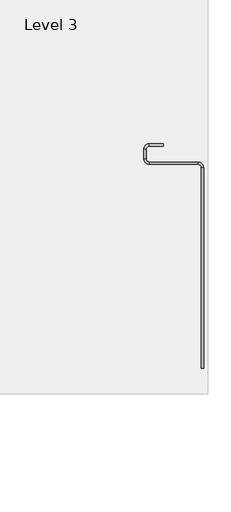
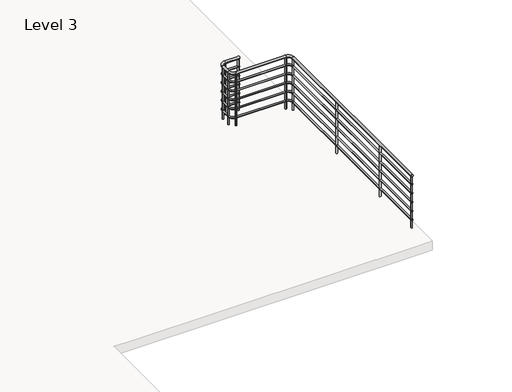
# One storey, part 2 of 4: 1 railing.
"""IFC4 building model written with IfcOpenShell, lengths in millimetres."""

from ifc_helpers import new_model, si_unit, point, frame, frame_2d, origin, place, context, project, spatial, circle_curve, ellipse_curve, trimmed, segment, composite_curve, outline, extrude, element, save
from ifc_brep_helpers import plane_surface, cylinder_surface, revolved_surface, advanced_brep

model = new_model("IFC4")

# Units and contexts
model_context = context("Model", 3, world=origin())
ifc_project = project(units=[si_unit("LENGTHUNIT", "METRE", prefix="MILLI")], contexts=[model_context])

# Site, building, storey
site = spatial("IfcSite", under=ifc_project)
building = spatial("IfcBuilding", under=site)
storey = spatial("IfcBuildingStorey", under=building, Name="Level 3", Elevation=7315.2)

# Railing
placement = place(None, origin())
element("IfcRailing", 1, ObjectType="Handrail - Pipe", at=placement, inside=storey, context=model_context, shape_type="SolidModel", body=[
    advanced_brep(
    [(17286.8049721, -5485.5476681, 8210.55), (17286.8049721, -5523.6476681, 8210.55), (17058.2049721, -5485.5476681, 8210.55), (17058.2049721, -5523.6476681, 8210.55), (17001.0549721, -5580.7976681, 8210.55), (16962.9549721, -5580.7976681, 8210.55), (16962.9549721, -5733.1976681, 8210.55), (17001.0549721, -5733.1976681, 8210.55), (17058.2049721, -5790.3476681, 8210.55), (17058.2049721, -5828.4476681, 8210.55), (17861.7339721, -5828.4476681, 8210.55), (17861.7339721, -5790.3476681, 8210.55), (17918.8839721, -9214.5851681, 8210.55), (17956.9839721, -9214.5851681, 8210.55), (17956.9839721, -5885.5976681, 8210.55), (17918.8839721, -5885.5976681, 8210.55)],
    [
        (0, 1, circle_curve(frame((17286.8049721, -5504.5976681, 8210.55), z_axis=(1.0, 0.0, 0.0), x_axis=(0.0, -1.0, 0.0)), 19.05)),
        (1, 0, circle_curve(frame((17286.8049721, -5504.5976681, 8210.55), z_axis=(1.0, 0.0, 0.0), x_axis=(0.0, -1.0, 0.0)), 19.05)),
        (0, 2),
        (2, 3, circle_curve(frame((17058.2049721, -5504.5976681, 8210.55), z_axis=(1.0, 0.0, 0.0), x_axis=(0.0, -1.0, 0.0)), 19.05)),
        (3, 1),
        (3, 2, circle_curve(frame((17058.2049721, -5504.5976681, 8210.55), z_axis=(1.0, 0.0, 0.0), x_axis=(0.0, -1.0, 0.0)), 19.05)),
        (4, 5, circle_curve(frame((16982.0049721, -5580.7976681, 8210.55), z_axis=(0.0, -1.0, 0.0), x_axis=(1.0, 0.0, 0.0)), 19.05)),
        (5, 6),
        (6, 7, circle_curve(frame((16982.0049721, -5733.1976681, 8210.55), z_axis=(0.0, 1.0, 0.0), x_axis=(1.0, 0.0, 0.0)), 19.05)),
        (7, 4),
        (5, 4, circle_curve(frame((16982.0049721, -5580.7976681, 8210.55), z_axis=(0.0, -1.0, 0.0), x_axis=(1.0, 0.0, 0.0)), 19.05)),
        (7, 6, circle_curve(frame((16982.0049721, -5733.1976681, 8210.55), z_axis=(0.0, 1.0, 0.0), x_axis=(1.0, 0.0, 0.0)), 19.05)),
        (8, 9, circle_curve(frame((17058.2049721, -5809.3976681, 8210.55), z_axis=(1.0, 0.0, 0.0), x_axis=(0.0, 1.0, 0.0)), 19.05)),
        (9, 10),
        (10, 11, circle_curve(frame((17861.7339721, -5809.3976681, 8210.55), z_axis=(-1.0, 0.0, 0.0), x_axis=(0.0, 1.0, 0.0)), 19.05)),
        (11, 8),
        (9, 8, circle_curve(frame((17058.2049721, -5809.3976681, 8210.55), z_axis=(1.0, 0.0, 0.0), x_axis=(0.0, 1.0, 0.0)), 19.05)),
        (11, 10, circle_curve(frame((17861.7339721, -5809.3976681, 8210.55), z_axis=(-1.0, 0.0, 0.0), x_axis=(0.0, 1.0, 0.0)), 19.05)),
        (12, 13, circle_curve(frame((17937.9339721, -9214.5851681, 8210.55), z_axis=(0.0, -1.0, 0.0), x_axis=(1.0, 0.0, 0.0)), 19.05)),
        (13, 12, circle_curve(frame((17937.9339721, -9214.5851681, 8210.55), z_axis=(0.0, -1.0, 0.0), x_axis=(1.0, 0.0, 0.0)), 19.05)),
        (14, 15, circle_curve(frame((17937.9339721, -5885.5976681, 8210.55), z_axis=(0.0, -1.0, 0.0), x_axis=(1.0, 0.0, 0.0)), 19.05)),
        (15, 12),
        (13, 14),
        (15, 14, circle_curve(frame((17937.9339721, -5885.5976681, 8210.55), z_axis=(0.0, -1.0, 0.0), x_axis=(1.0, 0.0, 0.0)), 19.05)),
        (4, 3, circle_curve(frame((17058.2049721, -5580.7976681, 8210.55), z_axis=(0.0, 0.0, -1.0), x_axis=(0.0, 1.0, 0.0)), 57.15)),
        (2, 5, circle_curve(frame((17058.2049721, -5580.7976681, 8210.55), z_axis=(0.0, 0.0, 1.0), x_axis=(0.0, 1.0, 0.0)), 95.25)),
        (8, 7, circle_curve(frame((17058.2049721, -5733.1976681, 8210.55), z_axis=(0.0, 0.0, -1.0), x_axis=(-1.0, 0.0, 0.0)), 57.15)),
        (6, 9, circle_curve(frame((17058.2049721, -5733.1976681, 8210.55), z_axis=(0.0, 0.0, 1.0), x_axis=(-1.0, 0.0, 0.0)), 95.25)),
        (14, 11, circle_curve(frame((17861.7339721, -5885.5976681, 8210.55), z_axis=(0.0, 0.0, 1.0), x_axis=(0.0, 1.0, 0.0)), 95.25)),
        (10, 15, circle_curve(frame((17861.7339721, -5885.5976681, 8210.55), z_axis=(0.0, 0.0, -1.0), x_axis=(0.0, 1.0, 0.0)), 57.15)),
    ],
    [
        plane_surface(frame((17286.8049721, -5504.5976681, 8229.6), z_axis=(1.0, 0.0, 0.0), x_axis=(0.0, -1.0, 0.0))),
        cylinder_surface(frame((17286.8049721, -5504.5976681, 8210.55), z_axis=(1.0, 0.0, 0.0), x_axis=(0.0, -1.0, 0.0)), 19.05),
        cylinder_surface(frame((16982.0049721, -5580.7976681, 8210.55), z_axis=(0.0, 1.0, 0.0), x_axis=(1.0, 0.0, 0.0)), 19.05),
        cylinder_surface(frame((17058.2049721, -5809.3976681, 8210.55), z_axis=(-1.0, 0.0, 0.0), x_axis=(0.0, 1.0, 0.0)), 19.05),
        plane_surface(frame((17937.9339721, -9214.5851681, 8229.6), z_axis=(0.0, -1.0, 0.0), x_axis=(0.0, 0.0, -1.0))),
        cylinder_surface(frame((17937.9339721, -5885.5976681, 8210.55), z_axis=(0.0, 1.0, 0.0), x_axis=(1.0, 0.0, 0.0)), 19.05),
        revolved_surface(trimmed(ellipse_curve(frame((17058.2049721, -5504.5976681, 8210.55), z_axis=(1.0, 0.0, 0.0), x_axis=(0.0, -1.0, 0.0)), 19.05, 19.05), [point((17058.2049721, -5485.5476681, 8210.55))], [point((17058.2049721, -5523.6476681, 8210.55))], True, "CARTESIAN"), (17058.2049721, -5580.7976681, 8229.6), (0.0, 0.0, 1.0)),
        revolved_surface(trimmed(ellipse_curve(frame((17058.2049721, -5504.5976681, 8210.55), z_axis=(1.0, 0.0, 0.0), x_axis=(0.0, -1.0, 0.0)), 19.05, 19.05), [point((17058.2049721, -5523.6476681, 8210.55))], [point((17058.2049721, -5485.5476681, 8210.55))], True, "CARTESIAN"), (17058.2049721, -5580.7976681, 8229.6), (0.0, 0.0, 1.0)),
        revolved_surface(trimmed(ellipse_curve(frame((16982.0049721, -5733.1976681, 8210.55), z_axis=(0.0, 1.0, 0.0), x_axis=(1.0, 0.0, 0.0)), 19.05, 19.05), [point((16962.9549721, -5733.1976681, 8210.55))], [point((17001.0549721, -5733.1976681, 8210.55))], True, "CARTESIAN"), (17058.2049721, -5733.1976681, 8229.6), (0.0, 0.0, 1.0)),
        revolved_surface(trimmed(ellipse_curve(frame((16982.0049721, -5733.1976681, 8210.55), z_axis=(0.0, 1.0, 0.0), x_axis=(1.0, 0.0, 0.0)), 19.05, 19.05), [point((17001.0549721, -5733.1976681, 8210.55))], [point((16962.9549721, -5733.1976681, 8210.55))], True, "CARTESIAN"), (17058.2049721, -5733.1976681, 8229.6), (0.0, 0.0, 1.0)),
        revolved_surface(trimmed(ellipse_curve(frame((17861.7339721, -5809.3976681, 8210.55), z_axis=(-1.0, 0.0, 0.0), x_axis=(0.0, 1.0, 0.0)), 19.05, 19.05), [point((17861.7339721, -5828.4476681, 8210.55))], [point((17861.7339721, -5790.3476681, 8210.55))], True, "CARTESIAN"), (17861.7339721, -5885.5976681, 8229.6), (0.0, 0.0, -1.0)),
        revolved_surface(trimmed(ellipse_curve(frame((17861.7339721, -5809.3976681, 8210.55), z_axis=(-1.0, 0.0, 0.0), x_axis=(0.0, 1.0, 0.0)), 19.05, 19.05), [point((17861.7339721, -5790.3476681, 8210.55))], [point((17861.7339721, -5828.4476681, 8210.55))], True, "CARTESIAN"), (17861.7339721, -5885.5976681, 8229.6), (0.0, 0.0, -1.0)),
    ],
    [
        (0, [[1, 2]]),
        (1, [[-1, 3, 4, 5]]),
        (1, [[-2, -5, 6, -3]]),
        (2, [[7, 8, 9, 10]]),
        (2, [[11, -10, 12, -8]]),
        (3, [[13, 14, 15, 16]]),
        (3, [[17, -16, 18, -14]]),
        (4, [[19, 20]]),
        (5, [[21, 22, -20, 23]]),
        (5, [[24, -23, -19, -22]]),
        (6, [[25, -4, 26, -7]]),
        (7, [[-26, -6, -25, -11]]),
        (8, [[27, -9, 28, -13]]),
        (9, [[-28, -12, -27, -17]]),
        (10, [[29, -15, 30, -21]]),
        (11, [[-30, -18, -29, -24]]),
    ],
),
    advanced_brep(
    [(17286.8049721, -5517.2976681, 8064.5), (17286.8049721, -5491.8976681, 8064.5), (17058.2049721, -5517.2976681, 8064.5), (17058.2049721, -5491.8976681, 8064.5), (16969.3049721, -5580.7976681, 8064.5), (16994.7049721, -5580.7976681, 8064.5), (16994.7049721, -5733.1976681, 8064.5), (16969.3049721, -5733.1976681, 8064.5), (17058.2049721, -5822.0976681, 8064.5), (17058.2049721, -5796.6976681, 8064.5), (17861.7339721, -5796.6976681, 8064.5), (17861.7339721, -5822.0976681, 8064.5), (17950.6339721, -9214.5851681, 8064.5), (17925.2339721, -9214.5851681, 8064.5), (17925.2339721, -5885.5976681, 8064.5), (17950.6339721, -5885.5976681, 8064.5)],
    [
        (0, 1, circle_curve(frame((17286.8049721, -5504.5976681, 8064.5), z_axis=(1.0, 0.0, 0.0), x_axis=(0.0, 1.0, 0.0)), 12.7)),
        (1, 0, circle_curve(frame((17286.8049721, -5504.5976681, 8064.5), z_axis=(1.0, 0.0, 0.0), x_axis=(0.0, 1.0, 0.0)), 12.7)),
        (0, 2),
        (2, 3, circle_curve(frame((17058.2049721, -5504.5976681, 8064.5), z_axis=(1.0, 0.0, 0.0), x_axis=(0.0, 1.0, 0.0)), 12.7)),
        (3, 1),
        (3, 2, circle_curve(frame((17058.2049721, -5504.5976681, 8064.5), z_axis=(1.0, 0.0, 0.0), x_axis=(0.0, 1.0, 0.0)), 12.7)),
        (4, 5, circle_curve(frame((16982.0049721, -5580.7976681, 8064.5), z_axis=(0.0, -1.0, 0.0), x_axis=(-1.0, 0.0, 0.0)), 12.7)),
        (5, 6),
        (6, 7, circle_curve(frame((16982.0049721, -5733.1976681, 8064.5), z_axis=(0.0, 1.0, 0.0), x_axis=(-1.0, 0.0, 0.0)), 12.7)),
        (7, 4),
        (5, 4, circle_curve(frame((16982.0049721, -5580.7976681, 8064.5), z_axis=(0.0, -1.0, 0.0), x_axis=(-1.0, 0.0, 0.0)), 12.7)),
        (7, 6, circle_curve(frame((16982.0049721, -5733.1976681, 8064.5), z_axis=(0.0, 1.0, 0.0), x_axis=(-1.0, 0.0, 0.0)), 12.7)),
        (8, 9, circle_curve(frame((17058.2049721, -5809.3976681, 8064.5), z_axis=(1.0, 0.0, 0.0), x_axis=(0.0, -1.0, 0.0)), 12.7)),
        (9, 10),
        (10, 11, circle_curve(frame((17861.7339721, -5809.3976681, 8064.5), z_axis=(-1.0, 0.0, 0.0), x_axis=(0.0, -1.0, 0.0)), 12.7)),
        (11, 8),
        (9, 8, circle_curve(frame((17058.2049721, -5809.3976681, 8064.5), z_axis=(1.0, 0.0, 0.0), x_axis=(0.0, -1.0, 0.0)), 12.7)),
        (11, 10, circle_curve(frame((17861.7339721, -5809.3976681, 8064.5), z_axis=(-1.0, 0.0, 0.0), x_axis=(0.0, -1.0, 0.0)), 12.7)),
        (12, 13, circle_curve(frame((17937.9339721, -9214.5851681, 8064.5), z_axis=(0.0, -1.0, 0.0), x_axis=(-1.0, 0.0, 0.0)), 12.7)),
        (13, 12, circle_curve(frame((17937.9339721, -9214.5851681, 8064.5), z_axis=(0.0, -1.0, 0.0), x_axis=(-1.0, 0.0, 0.0)), 12.7)),
        (14, 15, circle_curve(frame((17937.9339721, -5885.5976681, 8064.5), z_axis=(0.0, -1.0, 0.0), x_axis=(-1.0, 0.0, 0.0)), 12.7)),
        (15, 12),
        (13, 14),
        (15, 14, circle_curve(frame((17937.9339721, -5885.5976681, 8064.5), z_axis=(0.0, -1.0, 0.0), x_axis=(-1.0, 0.0, 0.0)), 12.7)),
        (4, 3, circle_curve(frame((17058.2049721, -5580.7976681, 8064.5), z_axis=(0.0, 0.0, -1.0), x_axis=(0.0, 1.0, 0.0)), 88.9)),
        (2, 5, circle_curve(frame((17058.2049721, -5580.7976681, 8064.5), z_axis=(0.0, 0.0, 1.0), x_axis=(0.0, 1.0, 0.0)), 63.5)),
        (8, 7, circle_curve(frame((17058.2049721, -5733.1976681, 8064.5), z_axis=(0.0, 0.0, -1.0), x_axis=(-1.0, 0.0, 0.0)), 88.9)),
        (6, 9, circle_curve(frame((17058.2049721, -5733.1976681, 8064.5), z_axis=(0.0, 0.0, 1.0), x_axis=(-1.0, 0.0, 0.0)), 63.5)),
        (14, 11, circle_curve(frame((17861.7339721, -5885.5976681, 8064.5), z_axis=(0.0, 0.0, 1.0), x_axis=(0.0, 1.0, 0.0)), 63.5)),
        (10, 15, circle_curve(frame((17861.7339721, -5885.5976681, 8064.5), z_axis=(0.0, 0.0, -1.0), x_axis=(0.0, 1.0, 0.0)), 88.9)),
    ],
    [
        plane_surface(frame((17286.8049721, -5504.5976681, 8077.2), z_axis=(1.0, 0.0, 0.0), x_axis=(0.0, -1.0, 0.0))),
        cylinder_surface(frame((17286.8049721, -5504.5976681, 8064.5), z_axis=(1.0, 0.0, 0.0), x_axis=(0.0, 1.0, 0.0)), 12.7),
        cylinder_surface(frame((16982.0049721, -5580.7976681, 8064.5), z_axis=(0.0, 1.0, 0.0), x_axis=(-1.0, 0.0, 0.0)), 12.7),
        cylinder_surface(frame((17058.2049721, -5809.3976681, 8064.5), z_axis=(-1.0, 0.0, 0.0), x_axis=(0.0, -1.0, 0.0)), 12.7),
        plane_surface(frame((17937.9339721, -9214.5851681, 8077.2), z_axis=(0.0, -1.0, 0.0), x_axis=(0.0, 0.0, -1.0))),
        cylinder_surface(frame((17937.9339721, -5885.5976681, 8064.5), z_axis=(0.0, 1.0, 0.0), x_axis=(-1.0, 0.0, 0.0)), 12.7),
        revolved_surface(trimmed(ellipse_curve(frame((17058.2049721, -5504.5976681, 8064.5), z_axis=(1.0, 0.0, 0.0), x_axis=(0.0, 1.0, 0.0)), 12.7, 12.7), [point((17058.2049721, -5517.2976681, 8064.5))], [point((17058.2049721, -5491.8976681, 8064.5))], True, "CARTESIAN"), (17058.2049721, -5580.7976681, 8077.2), (0.0, 0.0, 1.0)),
        revolved_surface(trimmed(ellipse_curve(frame((17058.2049721, -5504.5976681, 8064.5), z_axis=(1.0, 0.0, 0.0), x_axis=(0.0, 1.0, 0.0)), 12.7, 12.7), [point((17058.2049721, -5491.8976681, 8064.5))], [point((17058.2049721, -5517.2976681, 8064.5))], True, "CARTESIAN"), (17058.2049721, -5580.7976681, 8077.2), (0.0, 0.0, 1.0)),
        revolved_surface(trimmed(ellipse_curve(frame((16982.0049721, -5733.1976681, 8064.5), z_axis=(0.0, 1.0, 0.0), x_axis=(-1.0, 0.0, 0.0)), 12.7, 12.7), [point((16994.7049721, -5733.1976681, 8064.5))], [point((16969.3049721, -5733.1976681, 8064.5))], True, "CARTESIAN"), (17058.2049721, -5733.1976681, 8077.2), (0.0, 0.0, 1.0)),
        revolved_surface(trimmed(ellipse_curve(frame((16982.0049721, -5733.1976681, 8064.5), z_axis=(0.0, 1.0, 0.0), x_axis=(-1.0, 0.0, 0.0)), 12.7, 12.7), [point((16969.3049721, -5733.1976681, 8064.5))], [point((16994.7049721, -5733.1976681, 8064.5))], True, "CARTESIAN"), (17058.2049721, -5733.1976681, 8077.2), (0.0, 0.0, 1.0)),
        revolved_surface(trimmed(ellipse_curve(frame((17861.7339721, -5809.3976681, 8064.5), z_axis=(-1.0, 0.0, 0.0), x_axis=(0.0, -1.0, 0.0)), 12.7, 12.7), [point((17861.7339721, -5796.6976681, 8064.5))], [point((17861.7339721, -5822.0976681, 8064.5))], True, "CARTESIAN"), (17861.7339721, -5885.5976681, 8077.2), (0.0, 0.0, -1.0)),
        revolved_surface(trimmed(ellipse_curve(frame((17861.7339721, -5809.3976681, 8064.5), z_axis=(-1.0, 0.0, 0.0), x_axis=(0.0, -1.0, 0.0)), 12.7, 12.7), [point((17861.7339721, -5822.0976681, 8064.5))], [point((17861.7339721, -5796.6976681, 8064.5))], True, "CARTESIAN"), (17861.7339721, -5885.5976681, 8077.2), (0.0, 0.0, -1.0)),
    ],
    [
        (0, [[1, 2]]),
        (1, [[-1, 3, 4, 5]]),
        (1, [[-2, -5, 6, -3]]),
        (2, [[7, 8, 9, 10]]),
        (2, [[11, -10, 12, -8]]),
        (3, [[13, 14, 15, 16]]),
        (3, [[17, -16, 18, -14]]),
        (4, [[19, 20]]),
        (5, [[21, 22, -20, 23]]),
        (5, [[24, -23, -19, -22]]),
        (6, [[25, -4, 26, -7]]),
        (7, [[-26, -6, -25, -11]]),
        (8, [[27, -9, 28, -13]]),
        (9, [[-28, -12, -27, -17]]),
        (10, [[29, -15, 30, -21]]),
        (11, [[-30, -18, -29, -24]]),
    ],
),
    advanced_brep(
    [(17286.8049721, -5517.2976681, 7912.1), (17286.8049721, -5491.8976681, 7912.1), (17058.2049721, -5517.2976681, 7912.1), (17058.2049721, -5491.8976681, 7912.1), (16969.3049721, -5580.7976681, 7912.1), (16994.7049721, -5580.7976681, 7912.1), (16994.7049721, -5733.1976681, 7912.1), (16969.3049721, -5733.1976681, 7912.1), (17058.2049721, -5822.0976681, 7912.1), (17058.2049721, -5796.6976681, 7912.1), (17861.7339721, -5796.6976681, 7912.1), (17861.7339721, -5822.0976681, 7912.1), (17950.6339721, -9214.5851681, 7912.1), (17925.2339721, -9214.5851681, 7912.1), (17925.2339721, -5885.5976681, 7912.1), (17950.6339721, -5885.5976681, 7912.1)],
    [
        (0, 1, circle_curve(frame((17286.8049721, -5504.5976681, 7912.1), z_axis=(1.0, 0.0, 0.0), x_axis=(0.0, 1.0, 0.0)), 12.7)),
        (1, 0, circle_curve(frame((17286.8049721, -5504.5976681, 7912.1), z_axis=(1.0, 0.0, 0.0), x_axis=(0.0, 1.0, 0.0)), 12.7)),
        (0, 2),
        (2, 3, circle_curve(frame((17058.2049721, -5504.5976681, 7912.1), z_axis=(1.0, 0.0, 0.0), x_axis=(0.0, 1.0, 0.0)), 12.7)),
        (3, 1),
        (3, 2, circle_curve(frame((17058.2049721, -5504.5976681, 7912.1), z_axis=(1.0, 0.0, 0.0), x_axis=(0.0, 1.0, 0.0)), 12.7)),
        (4, 5, circle_curve(frame((16982.0049721, -5580.7976681, 7912.1), z_axis=(0.0, -1.0, 0.0), x_axis=(-1.0, 0.0, 0.0)), 12.7)),
        (5, 6),
        (6, 7, circle_curve(frame((16982.0049721, -5733.1976681, 7912.1), z_axis=(0.0, 1.0, 0.0), x_axis=(-1.0, 0.0, 0.0)), 12.7)),
        (7, 4),
        (5, 4, circle_curve(frame((16982.0049721, -5580.7976681, 7912.1), z_axis=(0.0, -1.0, 0.0), x_axis=(-1.0, 0.0, 0.0)), 12.7)),
        (7, 6, circle_curve(frame((16982.0049721, -5733.1976681, 7912.1), z_axis=(0.0, 1.0, 0.0), x_axis=(-1.0, 0.0, 0.0)), 12.7)),
        (8, 9, circle_curve(frame((17058.2049721, -5809.3976681, 7912.1), z_axis=(1.0, 0.0, 0.0), x_axis=(0.0, -1.0, 0.0)), 12.7)),
        (9, 10),
        (10, 11, circle_curve(frame((17861.7339721, -5809.3976681, 7912.1), z_axis=(-1.0, 0.0, 0.0), x_axis=(0.0, -1.0, 0.0)), 12.7)),
        (11, 8),
        (9, 8, circle_curve(frame((17058.2049721, -5809.3976681, 7912.1), z_axis=(1.0, 0.0, 0.0), x_axis=(0.0, -1.0, 0.0)), 12.7)),
        (11, 10, circle_curve(frame((17861.7339721, -5809.3976681, 7912.1), z_axis=(-1.0, 0.0, 0.0), x_axis=(0.0, -1.0, 0.0)), 12.7)),
        (12, 13, circle_curve(frame((17937.9339721, -9214.5851681, 7912.1), z_axis=(0.0, -1.0, 0.0), x_axis=(-1.0, 0.0, 0.0)), 12.7)),
        (13, 12, circle_curve(frame((17937.9339721, -9214.5851681, 7912.1), z_axis=(0.0, -1.0, 0.0), x_axis=(-1.0, 0.0, 0.0)), 12.7)),
        (14, 15, circle_curve(frame((17937.9339721, -5885.5976681, 7912.1), z_axis=(0.0, -1.0, 0.0), x_axis=(-1.0, 0.0, 0.0)), 12.7)),
        (15, 12),
        (13, 14),
        (15, 14, circle_curve(frame((17937.9339721, -5885.5976681, 7912.1), z_axis=(0.0, -1.0, 0.0), x_axis=(-1.0, 0.0, 0.0)), 12.7)),
        (4, 3, circle_curve(frame((17058.2049721, -5580.7976681, 7912.1), z_axis=(0.0, 0.0, -1.0), x_axis=(0.0, 1.0, 0.0)), 88.9)),
        (2, 5, circle_curve(frame((17058.2049721, -5580.7976681, 7912.1), z_axis=(0.0, 0.0, 1.0), x_axis=(0.0, 1.0, 0.0)), 63.5)),
        (8, 7, circle_curve(frame((17058.2049721, -5733.1976681, 7912.1), z_axis=(0.0, 0.0, -1.0), x_axis=(-1.0, 0.0, 0.0)), 88.9)),
        (6, 9, circle_curve(frame((17058.2049721, -5733.1976681, 7912.1), z_axis=(0.0, 0.0, 1.0), x_axis=(-1.0, 0.0, 0.0)), 63.5)),
        (14, 11, circle_curve(frame((17861.7339721, -5885.5976681, 7912.1), z_axis=(0.0, 0.0, 1.0), x_axis=(0.0, 1.0, 0.0)), 63.5)),
        (10, 15, circle_curve(frame((17861.7339721, -5885.5976681, 7912.1), z_axis=(0.0, 0.0, -1.0), x_axis=(0.0, 1.0, 0.0)), 88.9)),
    ],
    [
        plane_surface(frame((17286.8049721, -5504.5976681, 7924.8), z_axis=(1.0, 0.0, 0.0), x_axis=(0.0, -1.0, 0.0))),
        cylinder_surface(frame((17286.8049721, -5504.5976681, 7912.1), z_axis=(1.0, 0.0, 0.0), x_axis=(0.0, 1.0, 0.0)), 12.7),
        cylinder_surface(frame((16982.0049721, -5580.7976681, 7912.1), z_axis=(0.0, 1.0, 0.0), x_axis=(-1.0, 0.0, 0.0)), 12.7),
        cylinder_surface(frame((17058.2049721, -5809.3976681, 7912.1), z_axis=(-1.0, 0.0, 0.0), x_axis=(0.0, -1.0, 0.0)), 12.7),
        plane_surface(frame((17937.9339721, -9214.5851681, 7924.8), z_axis=(0.0, -1.0, 0.0), x_axis=(0.0, 0.0, -1.0))),
        cylinder_surface(frame((17937.9339721, -5885.5976681, 7912.1), z_axis=(0.0, 1.0, 0.0), x_axis=(-1.0, 0.0, 0.0)), 12.7),
        revolved_surface(trimmed(ellipse_curve(frame((17058.2049721, -5504.5976681, 7912.1), z_axis=(1.0, 0.0, 0.0), x_axis=(0.0, 1.0, 0.0)), 12.7, 12.7), [point((17058.2049721, -5517.2976681, 7912.1))], [point((17058.2049721, -5491.8976681, 7912.1))], True, "CARTESIAN"), (17058.2049721, -5580.7976681, 7924.8), (0.0, 0.0, 1.0)),
        revolved_surface(trimmed(ellipse_curve(frame((17058.2049721, -5504.5976681, 7912.1), z_axis=(1.0, 0.0, 0.0), x_axis=(0.0, 1.0, 0.0)), 12.7, 12.7), [point((17058.2049721, -5491.8976681, 7912.1))], [point((17058.2049721, -5517.2976681, 7912.1))], True, "CARTESIAN"), (17058.2049721, -5580.7976681, 7924.8), (0.0, 0.0, 1.0)),
        revolved_surface(trimmed(ellipse_curve(frame((16982.0049721, -5733.1976681, 7912.1), z_axis=(0.0, 1.0, 0.0), x_axis=(-1.0, 0.0, 0.0)), 12.7, 12.7), [point((16994.7049721, -5733.1976681, 7912.1))], [point((16969.3049721, -5733.1976681, 7912.1))], True, "CARTESIAN"), (17058.2049721, -5733.1976681, 7924.8), (0.0, 0.0, 1.0)),
        revolved_surface(trimmed(ellipse_curve(frame((16982.0049721, -5733.1976681, 7912.1), z_axis=(0.0, 1.0, 0.0), x_axis=(-1.0, 0.0, 0.0)), 12.7, 12.7), [point((16969.3049721, -5733.1976681, 7912.1))], [point((16994.7049721, -5733.1976681, 7912.1))], True, "CARTESIAN"), (17058.2049721, -5733.1976681, 7924.8), (0.0, 0.0, 1.0)),
        revolved_surface(trimmed(ellipse_curve(frame((17861.7339721, -5809.3976681, 7912.1), z_axis=(-1.0, 0.0, 0.0), x_axis=(0.0, -1.0, 0.0)), 12.7, 12.7), [point((17861.7339721, -5796.6976681, 7912.1))], [point((17861.7339721, -5822.0976681, 7912.1))], True, "CARTESIAN"), (17861.7339721, -5885.5976681, 7924.8), (0.0, 0.0, -1.0)),
        revolved_surface(trimmed(ellipse_curve(frame((17861.7339721, -5809.3976681, 7912.1), z_axis=(-1.0, 0.0, 0.0), x_axis=(0.0, -1.0, 0.0)), 12.7, 12.7), [point((17861.7339721, -5822.0976681, 7912.1))], [point((17861.7339721, -5796.6976681, 7912.1))], True, "CARTESIAN"), (17861.7339721, -5885.5976681, 7924.8), (0.0, 0.0, -1.0)),
    ],
    [
        (0, [[1, 2]]),
        (1, [[-1, 3, 4, 5]]),
        (1, [[-2, -5, 6, -3]]),
        (2, [[7, 8, 9, 10]]),
        (2, [[11, -10, 12, -8]]),
        (3, [[13, 14, 15, 16]]),
        (3, [[17, -16, 18, -14]]),
        (4, [[19, 20]]),
        (5, [[21, 22, -20, 23]]),
        (5, [[24, -23, -19, -22]]),
        (6, [[25, -4, 26, -7]]),
        (7, [[-26, -6, -25, -11]]),
        (8, [[27, -9, 28, -13]]),
        (9, [[-28, -12, -27, -17]]),
        (10, [[29, -15, 30, -21]]),
        (11, [[-30, -18, -29, -24]]),
    ],
),
    advanced_brep(
    [(17286.8049721, -5517.2976681, 7759.7), (17286.8049721, -5491.8976681, 7759.7), (17058.2049721, -5517.2976681, 7759.7), (17058.2049721, -5491.8976681, 7759.7), (16969.3049721, -5580.7976681, 7759.7), (16994.7049721, -5580.7976681, 7759.7), (16994.7049721, -5733.1976681, 7759.7), (16969.3049721, -5733.1976681, 7759.7), (17058.2049721, -5822.0976681, 7759.7), (17058.2049721, -5796.6976681, 7759.7), (17861.7339721, -5796.6976681, 7759.7), (17861.7339721, -5822.0976681, 7759.7), (17950.6339721, -9214.5851681, 7759.7), (17925.2339721, -9214.5851681, 7759.7), (17925.2339721, -5885.5976681, 7759.7), (17950.6339721, -5885.5976681, 7759.7)],
    [
        (0, 1, circle_curve(frame((17286.8049721, -5504.5976681, 7759.7), z_axis=(1.0, 0.0, 0.0), x_axis=(0.0, 1.0, 0.0)), 12.7)),
        (1, 0, circle_curve(frame((17286.8049721, -5504.5976681, 7759.7), z_axis=(1.0, 0.0, 0.0), x_axis=(0.0, 1.0, 0.0)), 12.7)),
        (0, 2),
        (2, 3, circle_curve(frame((17058.2049721, -5504.5976681, 7759.7), z_axis=(1.0, 0.0, 0.0), x_axis=(0.0, 1.0, 0.0)), 12.7)),
        (3, 1),
        (3, 2, circle_curve(frame((17058.2049721, -5504.5976681, 7759.7), z_axis=(1.0, 0.0, 0.0), x_axis=(0.0, 1.0, 0.0)), 12.7)),
        (4, 5, circle_curve(frame((16982.0049721, -5580.7976681, 7759.7), z_axis=(0.0, -1.0, 0.0), x_axis=(-1.0, 0.0, 0.0)), 12.7)),
        (5, 6),
        (6, 7, circle_curve(frame((16982.0049721, -5733.1976681, 7759.7), z_axis=(0.0, 1.0, 0.0), x_axis=(-1.0, 0.0, 0.0)), 12.7)),
        (7, 4),
        (5, 4, circle_curve(frame((16982.0049721, -5580.7976681, 7759.7), z_axis=(0.0, -1.0, 0.0), x_axis=(-1.0, 0.0, 0.0)), 12.7)),
        (7, 6, circle_curve(frame((16982.0049721, -5733.1976681, 7759.7), z_axis=(0.0, 1.0, 0.0), x_axis=(-1.0, 0.0, 0.0)), 12.7)),
        (8, 9, circle_curve(frame((17058.2049721, -5809.3976681, 7759.7), z_axis=(1.0, 0.0, 0.0), x_axis=(0.0, -1.0, 0.0)), 12.7)),
        (9, 10),
        (10, 11, circle_curve(frame((17861.7339721, -5809.3976681, 7759.7), z_axis=(-1.0, 0.0, 0.0), x_axis=(0.0, -1.0, 0.0)), 12.7)),
        (11, 8),
        (9, 8, circle_curve(frame((17058.2049721, -5809.3976681, 7759.7), z_axis=(1.0, 0.0, 0.0), x_axis=(0.0, -1.0, 0.0)), 12.7)),
        (11, 10, circle_curve(frame((17861.7339721, -5809.3976681, 7759.7), z_axis=(-1.0, 0.0, 0.0), x_axis=(0.0, -1.0, 0.0)), 12.7)),
        (12, 13, circle_curve(frame((17937.9339721, -9214.5851681, 7759.7), z_axis=(0.0, -1.0, 0.0), x_axis=(-1.0, 0.0, 0.0)), 12.7)),
        (13, 12, circle_curve(frame((17937.9339721, -9214.5851681, 7759.7), z_axis=(0.0, -1.0, 0.0), x_axis=(-1.0, 0.0, 0.0)), 12.7)),
        (14, 15, circle_curve(frame((17937.9339721, -5885.5976681, 7759.7), z_axis=(0.0, -1.0, 0.0), x_axis=(-1.0, 0.0, 0.0)), 12.7)),
        (15, 12),
        (13, 14),
        (15, 14, circle_curve(frame((17937.9339721, -5885.5976681, 7759.7), z_axis=(0.0, -1.0, 0.0), x_axis=(-1.0, 0.0, 0.0)), 12.7)),
        (4, 3, circle_curve(frame((17058.2049721, -5580.7976681, 7759.7), z_axis=(0.0, 0.0, -1.0), x_axis=(0.0, 1.0, 0.0)), 88.9)),
        (2, 5, circle_curve(frame((17058.2049721, -5580.7976681, 7759.7), z_axis=(0.0, 0.0, 1.0), x_axis=(0.0, 1.0, 0.0)), 63.5)),
        (8, 7, circle_curve(frame((17058.2049721, -5733.1976681, 7759.7), z_axis=(0.0, 0.0, -1.0), x_axis=(-1.0, 0.0, 0.0)), 88.9)),
        (6, 9, circle_curve(frame((17058.2049721, -5733.1976681, 7759.7), z_axis=(0.0, 0.0, 1.0), x_axis=(-1.0, 0.0, 0.0)), 63.5)),
        (14, 11, circle_curve(frame((17861.7339721, -5885.5976681, 7759.7), z_axis=(0.0, 0.0, 1.0), x_axis=(0.0, 1.0, 0.0)), 63.5)),
        (10, 15, circle_curve(frame((17861.7339721, -5885.5976681, 7759.7), z_axis=(0.0, 0.0, -1.0), x_axis=(0.0, 1.0, 0.0)), 88.9)),
    ],
    [
        plane_surface(frame((17286.8049721, -5504.5976681, 7772.4), z_axis=(1.0, 0.0, 0.0), x_axis=(0.0, -1.0, 0.0))),
        cylinder_surface(frame((17286.8049721, -5504.5976681, 7759.7), z_axis=(1.0, 0.0, 0.0), x_axis=(0.0, 1.0, 0.0)), 12.7),
        cylinder_surface(frame((16982.0049721, -5580.7976681, 7759.7), z_axis=(0.0, 1.0, 0.0), x_axis=(-1.0, 0.0, 0.0)), 12.7),
        cylinder_surface(frame((17058.2049721, -5809.3976681, 7759.7), z_axis=(-1.0, 0.0, 0.0), x_axis=(0.0, -1.0, 0.0)), 12.7),
        plane_surface(frame((17937.9339721, -9214.5851681, 7772.4), z_axis=(0.0, -1.0, 0.0), x_axis=(0.0, 0.0, -1.0))),
        cylinder_surface(frame((17937.9339721, -5885.5976681, 7759.7), z_axis=(0.0, 1.0, 0.0), x_axis=(-1.0, 0.0, 0.0)), 12.7),
        revolved_surface(trimmed(ellipse_curve(frame((17058.2049721, -5504.5976681, 7759.7), z_axis=(1.0, 0.0, 0.0), x_axis=(0.0, 1.0, 0.0)), 12.7, 12.7), [point((17058.2049721, -5517.2976681, 7759.7))], [point((17058.2049721, -5491.8976681, 7759.7))], True, "CARTESIAN"), (17058.2049721, -5580.7976681, 7772.4), (0.0, 0.0, 1.0)),
        revolved_surface(trimmed(ellipse_curve(frame((17058.2049721, -5504.5976681, 7759.7), z_axis=(1.0, 0.0, 0.0), x_axis=(0.0, 1.0, 0.0)), 12.7, 12.7), [point((17058.2049721, -5491.8976681, 7759.7))], [point((17058.2049721, -5517.2976681, 7759.7))], True, "CARTESIAN"), (17058.2049721, -5580.7976681, 7772.4), (0.0, 0.0, 1.0)),
        revolved_surface(trimmed(ellipse_curve(frame((16982.0049721, -5733.1976681, 7759.7), z_axis=(0.0, 1.0, 0.0), x_axis=(-1.0, 0.0, 0.0)), 12.7, 12.7), [point((16994.7049721, -5733.1976681, 7759.7))], [point((16969.3049721, -5733.1976681, 7759.7))], True, "CARTESIAN"), (17058.2049721, -5733.1976681, 7772.4), (0.0, 0.0, 1.0)),
        revolved_surface(trimmed(ellipse_curve(frame((16982.0049721, -5733.1976681, 7759.7), z_axis=(0.0, 1.0, 0.0), x_axis=(-1.0, 0.0, 0.0)), 12.7, 12.7), [point((16969.3049721, -5733.1976681, 7759.7))], [point((16994.7049721, -5733.1976681, 7759.7))], True, "CARTESIAN"), (17058.2049721, -5733.1976681, 7772.4), (0.0, 0.0, 1.0)),
        revolved_surface(trimmed(ellipse_curve(frame((17861.7339721, -5809.3976681, 7759.7), z_axis=(-1.0, 0.0, 0.0), x_axis=(0.0, -1.0, 0.0)), 12.7, 12.7), [point((17861.7339721, -5796.6976681, 7759.7))], [point((17861.7339721, -5822.0976681, 7759.7))], True, "CARTESIAN"), (17861.7339721, -5885.5976681, 7772.4), (0.0, 0.0, -1.0)),
        revolved_surface(trimmed(ellipse_curve(frame((17861.7339721, -5809.3976681, 7759.7), z_axis=(-1.0, 0.0, 0.0), x_axis=(0.0, -1.0, 0.0)), 12.7, 12.7), [point((17861.7339721, -5822.0976681, 7759.7))], [point((17861.7339721, -5796.6976681, 7759.7))], True, "CARTESIAN"), (17861.7339721, -5885.5976681, 7772.4), (0.0, 0.0, -1.0)),
    ],
    [
        (0, [[1, 2]]),
        (1, [[-1, 3, 4, 5]]),
        (1, [[-2, -5, 6, -3]]),
        (2, [[7, 8, 9, 10]]),
        (2, [[11, -10, 12, -8]]),
        (3, [[13, 14, 15, 16]]),
        (3, [[17, -16, 18, -14]]),
        (4, [[19, 20]]),
        (5, [[21, 22, -20, 23]]),
        (5, [[24, -23, -19, -22]]),
        (6, [[25, -4, 26, -7]]),
        (7, [[-26, -6, -25, -11]]),
        (8, [[27, -9, 28, -13]]),
        (9, [[-28, -12, -27, -17]]),
        (10, [[29, -15, 30, -21]]),
        (11, [[-30, -18, -29, -24]]),
    ],
),
    advanced_brep(
    [(17286.8049721, -5517.2976681, 7607.3), (17286.8049721, -5491.8976681, 7607.3), (17058.2049721, -5517.2976681, 7607.3), (17058.2049721, -5491.8976681, 7607.3), (16969.3049721, -5580.7976681, 7607.3), (16994.7049721, -5580.7976681, 7607.3), (16994.7049721, -5733.1976681, 7607.3), (16969.3049721, -5733.1976681, 7607.3), (17058.2049721, -5822.0976681, 7607.3), (17058.2049721, -5796.6976681, 7607.3), (17861.7339721, -5796.6976681, 7607.3), (17861.7339721, -5822.0976681, 7607.3), (17950.6339721, -9214.5851681, 7607.3), (17925.2339721, -9214.5851681, 7607.3), (17925.2339721, -5885.5976681, 7607.3), (17950.6339721, -5885.5976681, 7607.3)],
    [
        (0, 1, circle_curve(frame((17286.8049721, -5504.5976681, 7607.3), z_axis=(1.0, 0.0, 0.0), x_axis=(0.0, 1.0, 0.0)), 12.7)),
        (1, 0, circle_curve(frame((17286.8049721, -5504.5976681, 7607.3), z_axis=(1.0, 0.0, 0.0), x_axis=(0.0, 1.0, 0.0)), 12.7)),
        (0, 2),
        (2, 3, circle_curve(frame((17058.2049721, -5504.5976681, 7607.3), z_axis=(1.0, 0.0, 0.0), x_axis=(0.0, 1.0, 0.0)), 12.7)),
        (3, 1),
        (3, 2, circle_curve(frame((17058.2049721, -5504.5976681, 7607.3), z_axis=(1.0, 0.0, 0.0), x_axis=(0.0, 1.0, 0.0)), 12.7)),
        (4, 5, circle_curve(frame((16982.0049721, -5580.7976681, 7607.3), z_axis=(0.0, -1.0, 0.0), x_axis=(-1.0, 0.0, 0.0)), 12.7)),
        (5, 6),
        (6, 7, circle_curve(frame((16982.0049721, -5733.1976681, 7607.3), z_axis=(0.0, 1.0, 0.0), x_axis=(-1.0, 0.0, 0.0)), 12.7)),
        (7, 4),
        (5, 4, circle_curve(frame((16982.0049721, -5580.7976681, 7607.3), z_axis=(0.0, -1.0, 0.0), x_axis=(-1.0, 0.0, 0.0)), 12.7)),
        (7, 6, circle_curve(frame((16982.0049721, -5733.1976681, 7607.3), z_axis=(0.0, 1.0, 0.0), x_axis=(-1.0, 0.0, 0.0)), 12.7)),
        (8, 9, circle_curve(frame((17058.2049721, -5809.3976681, 7607.3), z_axis=(1.0, 0.0, 0.0), x_axis=(0.0, -1.0, 0.0)), 12.7)),
        (9, 10),
        (10, 11, circle_curve(frame((17861.7339721, -5809.3976681, 7607.3), z_axis=(-1.0, 0.0, 0.0), x_axis=(0.0, -1.0, 0.0)), 12.7)),
        (11, 8),
        (9, 8, circle_curve(frame((17058.2049721, -5809.3976681, 7607.3), z_axis=(1.0, 0.0, 0.0), x_axis=(0.0, -1.0, 0.0)), 12.7)),
        (11, 10, circle_curve(frame((17861.7339721, -5809.3976681, 7607.3), z_axis=(-1.0, 0.0, 0.0), x_axis=(0.0, -1.0, 0.0)), 12.7)),
        (12, 13, circle_curve(frame((17937.9339721, -9214.5851681, 7607.3), z_axis=(0.0, -1.0, 0.0), x_axis=(-1.0, 0.0, 0.0)), 12.7)),
        (13, 12, circle_curve(frame((17937.9339721, -9214.5851681, 7607.3), z_axis=(0.0, -1.0, 0.0), x_axis=(-1.0, 0.0, 0.0)), 12.7)),
        (14, 15, circle_curve(frame((17937.9339721, -5885.5976681, 7607.3), z_axis=(0.0, -1.0, 0.0), x_axis=(-1.0, 0.0, 0.0)), 12.7)),
        (15, 12),
        (13, 14),
        (15, 14, circle_curve(frame((17937.9339721, -5885.5976681, 7607.3), z_axis=(0.0, -1.0, 0.0), x_axis=(-1.0, 0.0, 0.0)), 12.7)),
        (4, 3, circle_curve(frame((17058.2049721, -5580.7976681, 7607.3), z_axis=(0.0, 0.0, -1.0), x_axis=(0.0, 1.0, 0.0)), 88.9)),
        (2, 5, circle_curve(frame((17058.2049721, -5580.7976681, 7607.3), z_axis=(0.0, 0.0, 1.0), x_axis=(0.0, 1.0, 0.0)), 63.5)),
        (8, 7, circle_curve(frame((17058.2049721, -5733.1976681, 7607.3), z_axis=(0.0, 0.0, -1.0), x_axis=(-1.0, 0.0, 0.0)), 88.9)),
        (6, 9, circle_curve(frame((17058.2049721, -5733.1976681, 7607.3), z_axis=(0.0, 0.0, 1.0), x_axis=(-1.0, 0.0, 0.0)), 63.5)),
        (14, 11, circle_curve(frame((17861.7339721, -5885.5976681, 7607.3), z_axis=(0.0, 0.0, 1.0), x_axis=(0.0, 1.0, 0.0)), 63.5)),
        (10, 15, circle_curve(frame((17861.7339721, -5885.5976681, 7607.3), z_axis=(0.0, 0.0, -1.0), x_axis=(0.0, 1.0, 0.0)), 88.9)),
    ],
    [
        plane_surface(frame((17286.8049721, -5504.5976681, 7620.0), z_axis=(1.0, 0.0, 0.0), x_axis=(0.0, -1.0, 0.0))),
        cylinder_surface(frame((17286.8049721, -5504.5976681, 7607.3), z_axis=(1.0, 0.0, 0.0), x_axis=(0.0, 1.0, 0.0)), 12.7),
        cylinder_surface(frame((16982.0049721, -5580.7976681, 7607.3), z_axis=(0.0, 1.0, 0.0), x_axis=(-1.0, 0.0, 0.0)), 12.7),
        cylinder_surface(frame((17058.2049721, -5809.3976681, 7607.3), z_axis=(-1.0, 0.0, 0.0), x_axis=(0.0, -1.0, 0.0)), 12.7),
        plane_surface(frame((17937.9339721, -9214.5851681, 7620.0), z_axis=(0.0, -1.0, 0.0), x_axis=(0.0, 0.0, -1.0))),
        cylinder_surface(frame((17937.9339721, -5885.5976681, 7607.3), z_axis=(0.0, 1.0, 0.0), x_axis=(-1.0, 0.0, 0.0)), 12.7),
        revolved_surface(trimmed(ellipse_curve(frame((17058.2049721, -5504.5976681, 7607.3), z_axis=(1.0, 0.0, 0.0), x_axis=(0.0, 1.0, 0.0)), 12.7, 12.7), [point((17058.2049721, -5517.2976681, 7607.3))], [point((17058.2049721, -5491.8976681, 7607.3))], True, "CARTESIAN"), (17058.2049721, -5580.7976681, 7620.0), (0.0, 0.0, 1.0)),
        revolved_surface(trimmed(ellipse_curve(frame((17058.2049721, -5504.5976681, 7607.3), z_axis=(1.0, 0.0, 0.0), x_axis=(0.0, 1.0, 0.0)), 12.7, 12.7), [point((17058.2049721, -5491.8976681, 7607.3))], [point((17058.2049721, -5517.2976681, 7607.3))], True, "CARTESIAN"), (17058.2049721, -5580.7976681, 7620.0), (0.0, 0.0, 1.0)),
        revolved_surface(trimmed(ellipse_curve(frame((16982.0049721, -5733.1976681, 7607.3), z_axis=(0.0, 1.0, 0.0), x_axis=(-1.0, 0.0, 0.0)), 12.7, 12.7), [point((16994.7049721, -5733.1976681, 7607.3))], [point((16969.3049721, -5733.1976681, 7607.3))], True, "CARTESIAN"), (17058.2049721, -5733.1976681, 7620.0), (0.0, 0.0, 1.0)),
        revolved_surface(trimmed(ellipse_curve(frame((16982.0049721, -5733.1976681, 7607.3), z_axis=(0.0, 1.0, 0.0), x_axis=(-1.0, 0.0, 0.0)), 12.7, 12.7), [point((16969.3049721, -5733.1976681, 7607.3))], [point((16994.7049721, -5733.1976681, 7607.3))], True, "CARTESIAN"), (17058.2049721, -5733.1976681, 7620.0), (0.0, 0.0, 1.0)),
        revolved_surface(trimmed(ellipse_curve(frame((17861.7339721, -5809.3976681, 7607.3), z_axis=(-1.0, 0.0, 0.0), x_axis=(0.0, -1.0, 0.0)), 12.7, 12.7), [point((17861.7339721, -5796.6976681, 7607.3))], [point((17861.7339721, -5822.0976681, 7607.3))], True, "CARTESIAN"), (17861.7339721, -5885.5976681, 7620.0), (0.0, 0.0, -1.0)),
        revolved_surface(trimmed(ellipse_curve(frame((17861.7339721, -5809.3976681, 7607.3), z_axis=(-1.0, 0.0, 0.0), x_axis=(0.0, -1.0, 0.0)), 12.7, 12.7), [point((17861.7339721, -5822.0976681, 7607.3))], [point((17861.7339721, -5796.6976681, 7607.3))], True, "CARTESIAN"), (17861.7339721, -5885.5976681, 7620.0), (0.0, 0.0, -1.0)),
    ],
    [
        (0, [[1, 2]]),
        (1, [[-1, 3, 4, 5]]),
        (1, [[-2, -5, 6, -3]]),
        (2, [[7, 8, 9, 10]]),
        (2, [[11, -10, 12, -8]]),
        (3, [[13, 14, 15, 16]]),
        (3, [[17, -16, 18, -14]]),
        (4, [[19, 20]]),
        (5, [[21, 22, -20, 23]]),
        (5, [[24, -23, -19, -22]]),
        (6, [[25, -4, 26, -7]]),
        (7, [[-26, -6, -25, -11]]),
        (8, [[27, -9, 28, -13]]),
        (9, [[-28, -12, -27, -17]]),
        (10, [[29, -15, 30, -21]]),
        (11, [[-30, -18, -29, -24]]),
    ],
),
    advanced_brep(
    [(17286.8049721, -5517.2976681, 7454.9), (17286.8049721, -5491.8976681, 7454.9), (17058.2049721, -5517.2976681, 7454.9), (17058.2049721, -5491.8976681, 7454.9), (16969.3049721, -5580.7976681, 7454.9), (16994.7049721, -5580.7976681, 7454.9), (16994.7049721, -5733.1976681, 7454.9), (16969.3049721, -5733.1976681, 7454.9), (17058.2049721, -5822.0976681, 7454.9), (17058.2049721, -5796.6976681, 7454.9), (17861.7339721, -5796.6976681, 7454.9), (17861.7339721, -5822.0976681, 7454.9), (17950.6339721, -9214.5851681, 7454.9), (17925.2339721, -9214.5851681, 7454.9), (17925.2339721, -5885.5976681, 7454.9), (17950.6339721, -5885.5976681, 7454.9)],
    [
        (0, 1, circle_curve(frame((17286.8049721, -5504.5976681, 7454.9), z_axis=(1.0, 0.0, 0.0), x_axis=(0.0, 1.0, 0.0)), 12.7)),
        (1, 0, circle_curve(frame((17286.8049721, -5504.5976681, 7454.9), z_axis=(1.0, 0.0, 0.0), x_axis=(0.0, 1.0, 0.0)), 12.7)),
        (0, 2),
        (2, 3, circle_curve(frame((17058.2049721, -5504.5976681, 7454.9), z_axis=(1.0, 0.0, 0.0), x_axis=(0.0, 1.0, 0.0)), 12.7)),
        (3, 1),
        (3, 2, circle_curve(frame((17058.2049721, -5504.5976681, 7454.9), z_axis=(1.0, 0.0, 0.0), x_axis=(0.0, 1.0, 0.0)), 12.7)),
        (4, 5, circle_curve(frame((16982.0049721, -5580.7976681, 7454.9), z_axis=(0.0, -1.0, 0.0), x_axis=(-1.0, 0.0, 0.0)), 12.7)),
        (5, 6),
        (6, 7, circle_curve(frame((16982.0049721, -5733.1976681, 7454.9), z_axis=(0.0, 1.0, 0.0), x_axis=(-1.0, 0.0, 0.0)), 12.7)),
        (7, 4),
        (5, 4, circle_curve(frame((16982.0049721, -5580.7976681, 7454.9), z_axis=(0.0, -1.0, 0.0), x_axis=(-1.0, 0.0, 0.0)), 12.7)),
        (7, 6, circle_curve(frame((16982.0049721, -5733.1976681, 7454.9), z_axis=(0.0, 1.0, 0.0), x_axis=(-1.0, 0.0, 0.0)), 12.7)),
        (8, 9, circle_curve(frame((17058.2049721, -5809.3976681, 7454.9), z_axis=(1.0, 0.0, 0.0), x_axis=(0.0, -1.0, 0.0)), 12.7)),
        (9, 10),
        (10, 11, circle_curve(frame((17861.7339721, -5809.3976681, 7454.9), z_axis=(-1.0, 0.0, 0.0), x_axis=(0.0, -1.0, 0.0)), 12.7)),
        (11, 8),
        (9, 8, circle_curve(frame((17058.2049721, -5809.3976681, 7454.9), z_axis=(1.0, 0.0, 0.0), x_axis=(0.0, -1.0, 0.0)), 12.7)),
        (11, 10, circle_curve(frame((17861.7339721, -5809.3976681, 7454.9), z_axis=(-1.0, 0.0, 0.0), x_axis=(0.0, -1.0, 0.0)), 12.7)),
        (12, 13, circle_curve(frame((17937.9339721, -9214.5851681, 7454.9), z_axis=(0.0, -1.0, 0.0), x_axis=(-1.0, 0.0, 0.0)), 12.7)),
        (13, 12, circle_curve(frame((17937.9339721, -9214.5851681, 7454.9), z_axis=(0.0, -1.0, 0.0), x_axis=(-1.0, 0.0, 0.0)), 12.7)),
        (14, 15, circle_curve(frame((17937.9339721, -5885.5976681, 7454.9), z_axis=(0.0, -1.0, 0.0), x_axis=(-1.0, 0.0, 0.0)), 12.7)),
        (15, 12),
        (13, 14),
        (15, 14, circle_curve(frame((17937.9339721, -5885.5976681, 7454.9), z_axis=(0.0, -1.0, 0.0), x_axis=(-1.0, 0.0, 0.0)), 12.7)),
        (4, 3, circle_curve(frame((17058.2049721, -5580.7976681, 7454.9), z_axis=(0.0, 0.0, -1.0), x_axis=(0.0, 1.0, 0.0)), 88.9)),
        (2, 5, circle_curve(frame((17058.2049721, -5580.7976681, 7454.9), z_axis=(0.0, 0.0, 1.0), x_axis=(0.0, 1.0, 0.0)), 63.5)),
        (8, 7, circle_curve(frame((17058.2049721, -5733.1976681, 7454.9), z_axis=(0.0, 0.0, -1.0), x_axis=(-1.0, 0.0, 0.0)), 88.9)),
        (6, 9, circle_curve(frame((17058.2049721, -5733.1976681, 7454.9), z_axis=(0.0, 0.0, 1.0), x_axis=(-1.0, 0.0, 0.0)), 63.5)),
        (14, 11, circle_curve(frame((17861.7339721, -5885.5976681, 7454.9), z_axis=(0.0, 0.0, 1.0), x_axis=(0.0, 1.0, 0.0)), 63.5)),
        (10, 15, circle_curve(frame((17861.7339721, -5885.5976681, 7454.9), z_axis=(0.0, 0.0, -1.0), x_axis=(0.0, 1.0, 0.0)), 88.9)),
    ],
    [
        plane_surface(frame((17286.8049721, -5504.5976681, 7467.6), z_axis=(1.0, 0.0, 0.0), x_axis=(0.0, -1.0, 0.0))),
        cylinder_surface(frame((17286.8049721, -5504.5976681, 7454.9), z_axis=(1.0, 0.0, 0.0), x_axis=(0.0, 1.0, 0.0)), 12.7),
        cylinder_surface(frame((16982.0049721, -5580.7976681, 7454.9), z_axis=(0.0, 1.0, 0.0), x_axis=(-1.0, 0.0, 0.0)), 12.7),
        cylinder_surface(frame((17058.2049721, -5809.3976681, 7454.9), z_axis=(-1.0, 0.0, 0.0), x_axis=(0.0, -1.0, 0.0)), 12.7),
        plane_surface(frame((17937.9339721, -9214.5851681, 7467.6), z_axis=(0.0, -1.0, 0.0), x_axis=(0.0, 0.0, -1.0))),
        cylinder_surface(frame((17937.9339721, -5885.5976681, 7454.9), z_axis=(0.0, 1.0, 0.0), x_axis=(-1.0, 0.0, 0.0)), 12.7),
        revolved_surface(trimmed(ellipse_curve(frame((17058.2049721, -5504.5976681, 7454.9), z_axis=(1.0, 0.0, 0.0), x_axis=(0.0, 1.0, 0.0)), 12.7, 12.7), [point((17058.2049721, -5517.2976681, 7454.9))], [point((17058.2049721, -5491.8976681, 7454.9))], True, "CARTESIAN"), (17058.2049721, -5580.7976681, 7467.6), (0.0, 0.0, 1.0)),
        revolved_surface(trimmed(ellipse_curve(frame((17058.2049721, -5504.5976681, 7454.9), z_axis=(1.0, 0.0, 0.0), x_axis=(0.0, 1.0, 0.0)), 12.7, 12.7), [point((17058.2049721, -5491.8976681, 7454.9))], [point((17058.2049721, -5517.2976681, 7454.9))], True, "CARTESIAN"), (17058.2049721, -5580.7976681, 7467.6), (0.0, 0.0, 1.0)),
        revolved_surface(trimmed(ellipse_curve(frame((16982.0049721, -5733.1976681, 7454.9), z_axis=(0.0, 1.0, 0.0), x_axis=(-1.0, 0.0, 0.0)), 12.7, 12.7), [point((16994.7049721, -5733.1976681, 7454.9))], [point((16969.3049721, -5733.1976681, 7454.9))], True, "CARTESIAN"), (17058.2049721, -5733.1976681, 7467.6), (0.0, 0.0, 1.0)),
        revolved_surface(trimmed(ellipse_curve(frame((16982.0049721, -5733.1976681, 7454.9), z_axis=(0.0, 1.0, 0.0), x_axis=(-1.0, 0.0, 0.0)), 12.7, 12.7), [point((16969.3049721, -5733.1976681, 7454.9))], [point((16994.7049721, -5733.1976681, 7454.9))], True, "CARTESIAN"), (17058.2049721, -5733.1976681, 7467.6), (0.0, 0.0, 1.0)),
        revolved_surface(trimmed(ellipse_curve(frame((17861.7339721, -5809.3976681, 7454.9), z_axis=(-1.0, 0.0, 0.0), x_axis=(0.0, -1.0, 0.0)), 12.7, 12.7), [point((17861.7339721, -5796.6976681, 7454.9))], [point((17861.7339721, -5822.0976681, 7454.9))], True, "CARTESIAN"), (17861.7339721, -5885.5976681, 7467.6), (0.0, 0.0, -1.0)),
        revolved_surface(trimmed(ellipse_curve(frame((17861.7339721, -5809.3976681, 7454.9), z_axis=(-1.0, 0.0, 0.0), x_axis=(0.0, -1.0, 0.0)), 12.7, 12.7), [point((17861.7339721, -5822.0976681, 7454.9))], [point((17861.7339721, -5796.6976681, 7454.9))], True, "CARTESIAN"), (17861.7339721, -5885.5976681, 7467.6), (0.0, 0.0, -1.0)),
    ],
    [
        (0, [[1, 2]]),
        (1, [[-1, 3, 4, 5]]),
        (1, [[-2, -5, 6, -3]]),
        (2, [[7, 8, 9, 10]]),
        (2, [[11, -10, 12, -8]]),
        (3, [[13, 14, 15, 16]]),
        (3, [[17, -16, 18, -14]]),
        (4, [[19, 20]]),
        (5, [[21, 22, -20, 23]]),
        (5, [[24, -23, -19, -22]]),
        (6, [[25, -4, 26, -7]]),
        (7, [[-26, -6, -25, -11]]),
        (8, [[27, -9, 28, -13]]),
        (9, [[-28, -12, -27, -17]]),
        (10, [[29, -15, 30, -21]]),
        (11, [[-30, -18, -29, -24]]),
    ],
),
    extrude(outline(composite_curve([segment(trimmed(circle_curve(frame_2d((17937.9339721, -8323.9976681)), 12.7), [point((17950.6339721, -8323.9976681))], [point((17925.2339721, -8323.9976681))], False, "CARTESIAN"), True, "CONTINUOUS"), segment(trimmed(circle_curve(frame_2d((17937.9339721, -8323.9976681)), 12.7), [point((17925.2339721, -8323.9976681))], [point((17950.6339721, -8323.9976681))], False, "CARTESIAN"), True, "CONTINUOUS")], self_intersect=False)), frame((0.0, 0.0, 7315.2), z_axis=(0.0, 0.0, 1.0), x_axis=(1.0, 0.0, 0.0)), (0.0, 0.0, 1.0), 876.3),
    extrude(outline(composite_curve([segment(trimmed(circle_curve(frame_2d((17937.9339721, -7104.7976681)), 12.7), [point((17950.6339721, -7104.7976681))], [point((17925.2339721, -7104.7976681))], False, "CARTESIAN"), True, "CONTINUOUS"), segment(trimmed(circle_curve(frame_2d((17937.9339721, -7104.7976681)), 12.7), [point((17925.2339721, -7104.7976681))], [point((17950.6339721, -7104.7976681))], False, "CARTESIAN"), True, "CONTINUOUS")], self_intersect=False)), frame((0.0, 0.0, 7315.2), z_axis=(0.0, 0.0, 1.0), x_axis=(1.0, 0.0, 0.0)), (0.0, 0.0, 1.0), 876.3),
    extrude(outline(composite_curve([segment(trimmed(circle_curve(frame_2d((17937.9339721, -5885.5976681)), 12.7), [point((17950.6339721, -5885.5976681))], [point((17925.2339721, -5885.5976681))], False, "CARTESIAN"), True, "CONTINUOUS"), segment(trimmed(circle_curve(frame_2d((17937.9339721, -5885.5976681)), 12.7), [point((17925.2339721, -5885.5976681))], [point((17950.6339721, -5885.5976681))], False, "CARTESIAN"), True, "CONTINUOUS")], self_intersect=False)), frame((0.0, 0.0, 7315.2), z_axis=(0.0, 0.0, 1.0), x_axis=(1.0, 0.0, 0.0)), (0.0, 0.0, 1.0), 876.3),
    extrude(outline(composite_curve([segment(trimmed(circle_curve(frame_2d((17861.7339721, -5809.3976681)), 12.7), [point((17861.7339721, -5796.6976681))], [point((17861.7339721, -5822.0976681))], False, "CARTESIAN"), True, "CONTINUOUS"), segment(trimmed(circle_curve(frame_2d((17861.7339721, -5809.3976681)), 12.7), [point((17861.7339721, -5822.0976681))], [point((17861.7339721, -5796.6976681))], False, "CARTESIAN"), True, "CONTINUOUS")], self_intersect=False)), frame((0.0, 0.0, 7315.2), z_axis=(0.0, 0.0, 1.0), x_axis=(1.0, 0.0, 0.0)), (0.0, 0.0, 1.0), 876.3),
    extrude(outline(composite_curve([segment(trimmed(circle_curve(frame_2d((17058.2049721, -5809.3976681)), 12.7), [point((17058.2049721, -5796.6976681))], [point((17058.2049721, -5822.0976681))], False, "CARTESIAN"), True, "CONTINUOUS"), segment(trimmed(circle_curve(frame_2d((17058.2049721, -5809.3976681)), 12.7), [point((17058.2049721, -5822.0976681))], [point((17058.2049721, -5796.6976681))], False, "CARTESIAN"), True, "CONTINUOUS")], self_intersect=False)), frame((0.0, 0.0, 7315.2), z_axis=(0.0, 0.0, 1.0), x_axis=(1.0, 0.0, 0.0)), (0.0, 0.0, 1.0), 876.3),
    extrude(outline(composite_curve([segment(trimmed(circle_curve(frame_2d((16982.0049721, -5733.1976681)), 12.7), [point((16994.7049721, -5733.1976681))], [point((16969.3049721, -5733.1976681))], False, "CARTESIAN"), True, "CONTINUOUS"), segment(trimmed(circle_curve(frame_2d((16982.0049721, -5733.1976681)), 12.7), [point((16969.3049721, -5733.1976681))], [point((16994.7049721, -5733.1976681))], False, "CARTESIAN"), True, "CONTINUOUS")], self_intersect=False)), frame((0.0, 0.0, 7315.2), z_axis=(0.0, 0.0, 1.0), x_axis=(1.0, 0.0, 0.0)), (0.0, 0.0, 1.0), 876.3),
    extrude(outline(composite_curve([segment(trimmed(circle_curve(frame_2d((16982.0049721, -5580.7976681)), 12.7), [point((16994.7049721, -5580.7976681))], [point((16969.3049721, -5580.7976681))], False, "CARTESIAN"), True, "CONTINUOUS"), segment(trimmed(circle_curve(frame_2d((16982.0049721, -5580.7976681)), 12.7), [point((16969.3049721, -5580.7976681))], [point((16994.7049721, -5580.7976681))], False, "CARTESIAN"), True, "CONTINUOUS")], self_intersect=False)), frame((0.0, 0.0, 7315.2), z_axis=(0.0, 0.0, 1.0), x_axis=(1.0, 0.0, 0.0)), (0.0, 0.0, 1.0), 876.3),
    extrude(outline(composite_curve([segment(trimmed(circle_curve(frame_2d((17058.2049721, -5504.5976681)), 12.7), [point((17058.2049721, -5517.2976681))], [point((17058.2049721, -5491.8976681))], False, "CARTESIAN"), True, "CONTINUOUS"), segment(trimmed(circle_curve(frame_2d((17058.2049721, -5504.5976681)), 12.7), [point((17058.2049721, -5491.8976681))], [point((17058.2049721, -5517.2976681))], False, "CARTESIAN"), True, "CONTINUOUS")], self_intersect=False)), frame((0.0, 0.0, 7315.2), z_axis=(0.0, 0.0, 1.0), x_axis=(1.0, 0.0, 0.0)), (0.0, 0.0, 1.0), 876.3),
    extrude(outline(composite_curve([segment(trimmed(circle_curve(frame_2d((17937.9339721, -9201.8851681)), 12.7), [point((17950.6339721, -9201.8851681))], [point((17925.2339721, -9201.8851681))], False, "CARTESIAN"), True, "CONTINUOUS"), segment(trimmed(circle_curve(frame_2d((17937.9339721, -9201.8851681)), 12.7), [point((17925.2339721, -9201.8851681))], [point((17950.6339721, -9201.8851681))], False, "CARTESIAN"), True, "CONTINUOUS")], self_intersect=False)), frame((0.0, 0.0, 7315.2), z_axis=(0.0, 0.0, 1.0), x_axis=(1.0, 0.0, 0.0)), (0.0, 0.0, 1.0), 876.3),
    extrude(outline(composite_curve([segment(trimmed(circle_curve(frame_2d((17274.1049721, -5504.5976681)), 12.7), [point((17274.1049721, -5517.2976681))], [point((17274.1049721, -5491.8976681))], False, "CARTESIAN"), True, "CONTINUOUS"), segment(trimmed(circle_curve(frame_2d((17274.1049721, -5504.5976681)), 12.7), [point((17274.1049721, -5491.8976681))], [point((17274.1049721, -5517.2976681))], False, "CARTESIAN"), True, "CONTINUOUS")], self_intersect=False)), frame((0.0, 0.0, 7315.2), z_axis=(0.0, 0.0, 1.0), x_axis=(1.0, 0.0, 0.0)), (0.0, 0.0, 1.0), 876.3),
])

save(model, "model.ifc")
